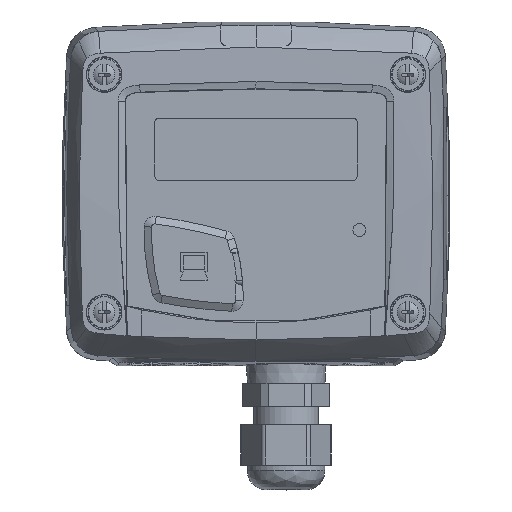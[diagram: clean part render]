
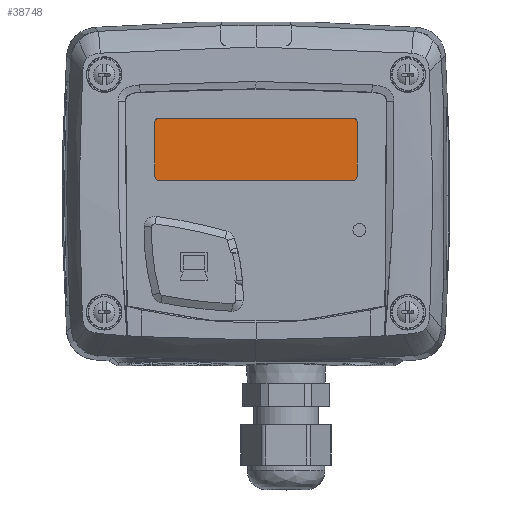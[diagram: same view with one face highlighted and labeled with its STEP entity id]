
A CAD part, top view. The second image highlights one B-rep face of the part: STEP entity #38748.
In plain terms, the highlighted planar face has unit normal (0, 0, 1).
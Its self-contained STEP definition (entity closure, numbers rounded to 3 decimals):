
#9613=DIRECTION('',(-1.,0.,0.));
#9614=VECTOR('',#9613,45.);
#9615=CARTESIAN_POINT('',(22.5,17.5,25.45));
#9616=LINE('',#9615,#9614);
#9621=CARTESIAN_POINT('',(22.5,16.5,25.45));
#9622=DIRECTION('',(0.,0.,-1.));
#9623=DIRECTION('',(0.,1.,0.));
#9624=AXIS2_PLACEMENT_3D('',#9621,#9622,#9623);
#9630=DIRECTION('',(0.,1.,0.));
#9631=VECTOR('',#9630,12.5);
#9632=CARTESIAN_POINT('',(23.5,4.,25.45));
#9633=LINE('',#9632,#9631);
#9638=CARTESIAN_POINT('',(22.5,4.,25.45));
#9639=DIRECTION('',(0.,0.,-1.));
#9640=DIRECTION('',(1.,0.,0.));
#9641=AXIS2_PLACEMENT_3D('',#9638,#9639,#9640);
#9647=DIRECTION('',(1.,0.,0.));
#9648=VECTOR('',#9647,45.);
#9649=CARTESIAN_POINT('',(-22.5,3.,25.45));
#9650=LINE('',#9649,#9648);
#9655=CARTESIAN_POINT('',(-22.5,4.,25.45));
#9656=DIRECTION('',(0.,0.,-1.));
#9657=DIRECTION('',(0.,-1.,0.));
#9658=AXIS2_PLACEMENT_3D('',#9655,#9656,#9657);
#9664=DIRECTION('',(0.,-1.,0.));
#9665=VECTOR('',#9664,12.5);
#9666=CARTESIAN_POINT('',(-23.5,16.5,25.45));
#9667=LINE('',#9666,#9665);
#9672=CARTESIAN_POINT('',(-22.5,16.5,25.45));
#9673=DIRECTION('',(0.,0.,-1.));
#9674=DIRECTION('',(-1.,0.,0.));
#9675=AXIS2_PLACEMENT_3D('',#9672,#9673,#9674);
#23623=CARTESIAN_POINT('',(22.5,17.5,25.45));
#23624=CARTESIAN_POINT('',(-22.5,17.5,25.45));
#23625=VERTEX_POINT('',#23623);
#23626=VERTEX_POINT('',#23624);
#23627=CARTESIAN_POINT('',(23.5,16.5,25.45));
#23628=VERTEX_POINT('',#23627);
#23629=CARTESIAN_POINT('',(23.5,4.,25.45));
#23630=VERTEX_POINT('',#23629);
#23631=CARTESIAN_POINT('',(22.5,3.,25.45));
#23632=VERTEX_POINT('',#23631);
#23633=CARTESIAN_POINT('',(-22.5,3.,25.45));
#23634=VERTEX_POINT('',#23633);
#23635=CARTESIAN_POINT('',(-23.5,4.,25.45));
#23636=VERTEX_POINT('',#23635);
#23637=CARTESIAN_POINT('',(-23.5,16.5,25.45));
#23638=VERTEX_POINT('',#23637);
#38726=CARTESIAN_POINT('',(0.,0.,25.45));
#38727=DIRECTION('',(0.,0.,1.));
#38728=DIRECTION('',(1.,0.,0.));
#38729=AXIS2_PLACEMENT_3D('',#38726,#38727,#38728);
#38730=PLANE('',#38729);
#38731=ORIENTED_EDGE('',*,*,#38716,.F.);
#38733=ORIENTED_EDGE('',*,*,#38732,.T.);
#38735=ORIENTED_EDGE('',*,*,#38734,.F.);
#38737=ORIENTED_EDGE('',*,*,#38736,.T.);
#38739=ORIENTED_EDGE('',*,*,#38738,.F.);
#38741=ORIENTED_EDGE('',*,*,#38740,.T.);
#38743=ORIENTED_EDGE('',*,*,#38742,.F.);
#38745=ORIENTED_EDGE('',*,*,#38744,.T.);
#38746=EDGE_LOOP('',(#38731,#38733,#38735,#38737,#38739,#38741,#38743,#38745));
#38747=FACE_OUTER_BOUND('',#38746,.F.);
#9625=CIRCLE('',#9624,1.);
#9642=CIRCLE('',#9641,1.);
#9659=CIRCLE('',#9658,1.);
#9676=CIRCLE('',#9675,1.);
#38716=EDGE_CURVE('',#23625,#23626,#9616,.T.);
#38732=EDGE_CURVE('',#23625,#23628,#9625,.T.);
#38734=EDGE_CURVE('',#23630,#23628,#9633,.T.);
#38736=EDGE_CURVE('',#23630,#23632,#9642,.T.);
#38738=EDGE_CURVE('',#23634,#23632,#9650,.T.);
#38740=EDGE_CURVE('',#23634,#23636,#9659,.T.);
#38742=EDGE_CURVE('',#23638,#23636,#9667,.T.);
#38744=EDGE_CURVE('',#23638,#23626,#9676,.T.);
#38748=ADVANCED_FACE('',(#38747),#38730,.T.);
